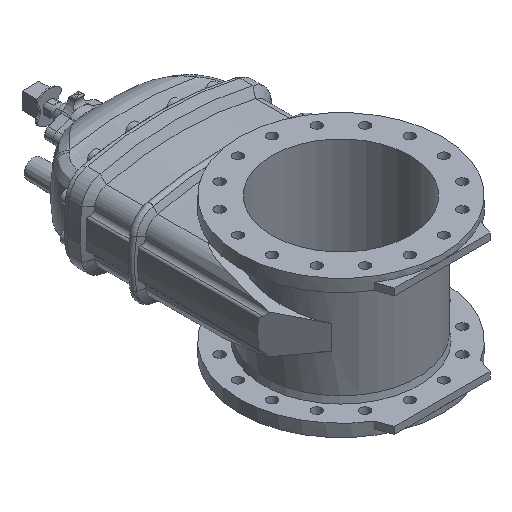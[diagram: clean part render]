
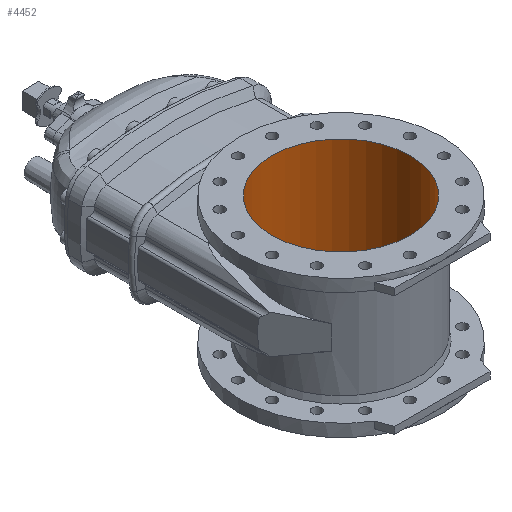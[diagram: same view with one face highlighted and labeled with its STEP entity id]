
A CAD part, isometric view. The second image highlights one B-rep face of the part: STEP entity #4452.
In plain terms, the highlighted cylindrical face has radius 203.5 mm (diameter 407 mm), a full revolution.
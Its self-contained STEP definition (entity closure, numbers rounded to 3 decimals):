
#3486 = EDGE_CURVE ( 'NONE', #15725, #15725, #4375, .T. ) ;
#3802 = AXIS2_PLACEMENT_3D ( 'NONE', #4953, #4954, #4955 ) ;
#4375 = CIRCLE ( 'NONE', #3802, 203.5 ) ;
#4452 = ADVANCED_FACE ( 'NONE', ( #18157, #18162 ), #18164, .F. ) ;
#4953 = CARTESIAN_POINT ( 'NONE',  ( 0., 0., -203. ) ) ;
#4954 = DIRECTION ( 'NONE',  ( 0., 0., 1. ) ) ;
#4955 = DIRECTION ( 'NONE',  ( 1., 0., 0. ) ) ;
#6077 = ORIENTED_EDGE ( 'NONE', *, *, #8312, .T. ) ;
#6078 = ORIENTED_EDGE ( 'NONE', *, *, #3486, .F. ) ;
#7953 = EDGE_LOOP ( 'NONE', ( #6078 ) ) ;
#7954 = EDGE_LOOP ( 'NONE', ( #6077 ) ) ;
#8312 = EDGE_CURVE ( 'NONE', #15771, #15771, #15593, .T. ) ;
#9990 = AXIS2_PLACEMENT_3D ( 'NONE', #15289, #15290, #15291 ) ;
#15289 = CARTESIAN_POINT ( 'NONE',  ( 0., 0., 203. ) ) ;
#15290 = DIRECTION ( 'NONE',  ( 0., 0., 1. ) ) ;
#15291 = DIRECTION ( 'NONE',  ( 1., 0., 0. ) ) ;
#15593 = CIRCLE ( 'NONE', #9990, 203.5 ) ;
#15725 = VERTEX_POINT ( 'NONE', #17339 ) ;
#15771 = VERTEX_POINT ( 'NONE', #17385 ) ;
#17339 = CARTESIAN_POINT ( 'NONE',  ( 203.5, 0., -203. ) ) ;
#17385 = CARTESIAN_POINT ( 'NONE',  ( 203.5, 0., 203. ) ) ;
#18157 = FACE_OUTER_BOUND ( 'NONE', #7954, .T. ) ;
#18162 = FACE_OUTER_BOUND ( 'NONE', #7953, .T. ) ;
#18164 = CYLINDRICAL_SURFACE ( 'NONE', #19099, 203.5 ) ;
#19099 = AXIS2_PLACEMENT_3D ( 'NONE', #19473, #19474, #19472 ) ;
#19472 = DIRECTION ( 'NONE',  ( -1., 0., 0. ) ) ;
#19473 = CARTESIAN_POINT ( 'NONE',  ( 0., 0., 203. ) ) ;
#19474 = DIRECTION ( 'NONE',  ( 0., 0., -1. ) ) ;
